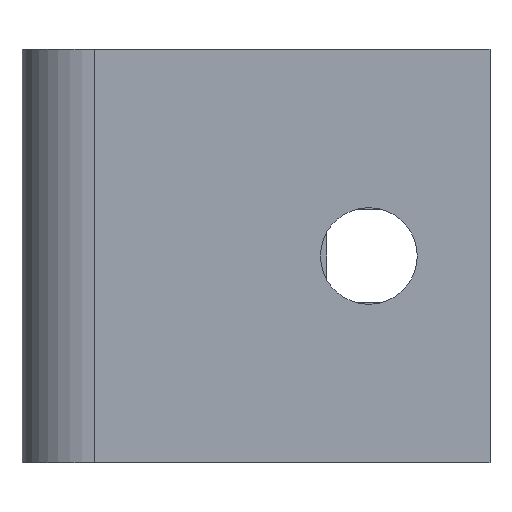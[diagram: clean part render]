
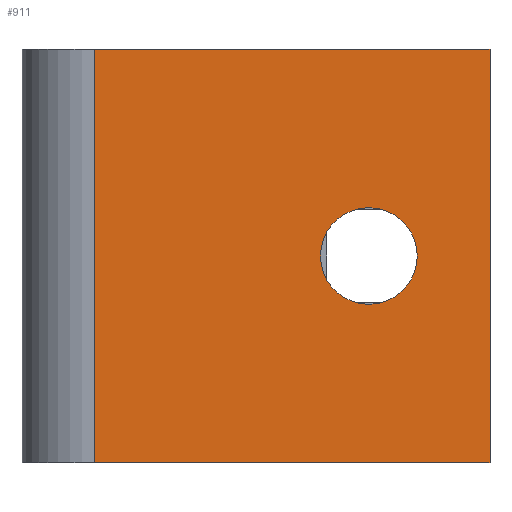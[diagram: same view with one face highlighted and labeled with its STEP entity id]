
A CAD part, left-side view. The second image highlights one B-rep face of the part: STEP entity #911.
In plain terms, the highlighted planar face has unit normal (-1, 0, 0).
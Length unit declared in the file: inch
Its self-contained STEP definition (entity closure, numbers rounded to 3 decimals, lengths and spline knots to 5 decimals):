
#8 = CARTESIAN_POINT ( 'NONE',  ( 0., 0., -3.98 ) ) ;
#31 = CARTESIAN_POINT ( 'NONE',  ( 0., 0., -3.98 ) ) ;
#53 = VECTOR ( 'NONE', #531, 39.37008 ) ;
#62 = CARTESIAN_POINT ( 'NONE',  ( 0., 0., -3.98 ) ) ;
#67 = LINE ( 'NONE', #8, #753 ) ;
#75 = DIRECTION ( 'NONE',  ( -1., 0., 0. ) ) ;
#88 = CIRCLE ( 'NONE', #631, 0.465 ) ;
#90 = ORIENTED_EDGE ( 'NONE', *, *, #576, .F. ) ;
#101 = EDGE_LOOP ( 'NONE', ( #185, #660, #476, #963 ) ) ;
#143 = DIRECTION ( 'NONE',  ( -1., 0., 0. ) ) ;
#144 = DIRECTION ( 'NONE',  ( 0., 0., 1. ) ) ;
#163 = VECTOR ( 'NONE', #610, 39.37008 ) ;
#184 = CARTESIAN_POINT ( 'NONE',  ( 0., 0., 0. ) ) ;
#185 = ORIENTED_EDGE ( 'NONE', *, *, #806, .F. ) ;
#209 = FACE_OUTER_BOUND ( 'NONE', #101, .T. ) ;
#216 = DIRECTION ( 'NONE',  ( 0., 0., 1. ) ) ;
#236 = DIRECTION ( 'NONE',  ( 0., 0., 1. ) ) ;
#237 = VERTEX_POINT ( 'NONE', #777 ) ;
#257 = LINE ( 'NONE', #184, #53 ) ;
#271 = CARTESIAN_POINT ( 'NONE',  ( 0., 0., 0. ) ) ;
#282 = FACE_BOUND ( 'NONE', #372, .T. ) ;
#289 = CIRCLE ( 'NONE', #376, 0.465 ) ;
#314 = ORIENTED_EDGE ( 'NONE', *, *, #797, .F. ) ;
#372 = EDGE_LOOP ( 'NONE', ( #90, #314 ) ) ;
#376 = AXIS2_PLACEMENT_3D ( 'NONE', #464, #704, #236 ) ;
#462 = LINE ( 'NONE', #31, #163 ) ;
#464 = CARTESIAN_POINT ( 'NONE',  ( 0., 1.165, -1.99 ) ) ;
#470 = VERTEX_POINT ( 'NONE', #668 ) ;
#476 = ORIENTED_EDGE ( 'NONE', *, *, #620, .T. ) ;
#527 = AXIS2_PLACEMENT_3D ( 'NONE', #62, #143, #735 ) ;
#531 = DIRECTION ( 'NONE',  ( 0., -1., 0. ) ) ;
#562 = DIRECTION ( 'NONE',  ( 0., 0., 1. ) ) ;
#576 = EDGE_CURVE ( 'NONE', #754, #470, #88, .T. ) ;
#590 = EDGE_CURVE ( 'NONE', #761, #684, #67, .T. ) ;
#610 = DIRECTION ( 'NONE',  ( 0., -1., 0. ) ) ;
#616 = CARTESIAN_POINT ( 'NONE',  ( 0., 3.8, -3.98 ) ) ;
#620 = EDGE_CURVE ( 'NONE', #846, #761, #462, .T. ) ;
#631 = AXIS2_PLACEMENT_3D ( 'NONE', #891, #75, #144 ) ;
#646 = CARTESIAN_POINT ( 'NONE',  ( 0., 1.165, -1.525 ) ) ;
#660 = ORIENTED_EDGE ( 'NONE', *, *, #692, .F. ) ;
#666 = PLANE ( 'NONE',  #527 ) ;
#668 = CARTESIAN_POINT ( 'NONE',  ( 0., 1.165, -2.455 ) ) ;
#684 = VERTEX_POINT ( 'NONE', #271 ) ;
#692 = EDGE_CURVE ( 'NONE', #846, #237, #863, .T. ) ;
#704 = DIRECTION ( 'NONE',  ( -1., 0., 0. ) ) ;
#708 = CARTESIAN_POINT ( 'NONE',  ( 0., 0., -3.98 ) ) ;
#721 = VECTOR ( 'NONE', #562, 39.37008 ) ;
#735 = DIRECTION ( 'NONE',  ( 0., 0., 1. ) ) ;
#753 = VECTOR ( 'NONE', #216, 39.37008 ) ;
#754 = VERTEX_POINT ( 'NONE', #646 ) ;
#761 = VERTEX_POINT ( 'NONE', #708 ) ;
#777 = CARTESIAN_POINT ( 'NONE',  ( 0., 3.8, 0. ) ) ;
#793 = CARTESIAN_POINT ( 'NONE',  ( 0., 3.8, -3.98 ) ) ;
#797 = EDGE_CURVE ( 'NONE', #470, #754, #289, .T. ) ;
#806 = EDGE_CURVE ( 'NONE', #237, #684, #257, .T. ) ;
#846 = VERTEX_POINT ( 'NONE', #616 ) ;
#863 = LINE ( 'NONE', #793, #721 ) ;
#891 = CARTESIAN_POINT ( 'NONE',  ( 0., 1.165, -1.99 ) ) ;
#911 = ADVANCED_FACE ( 'NONE', ( #282, #209 ), #666, .T. ) ;
#963 = ORIENTED_EDGE ( 'NONE', *, *, #590, .T. ) ;
